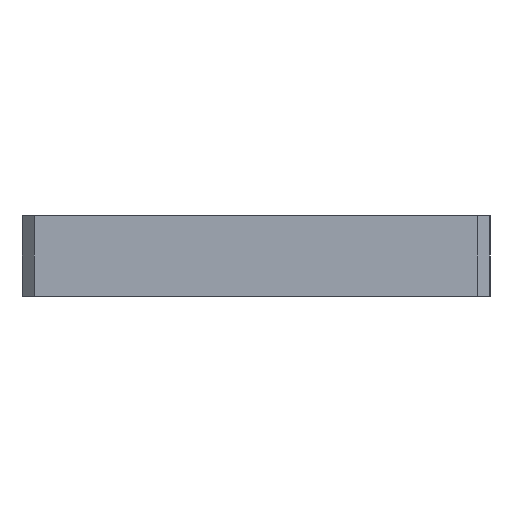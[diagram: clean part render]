
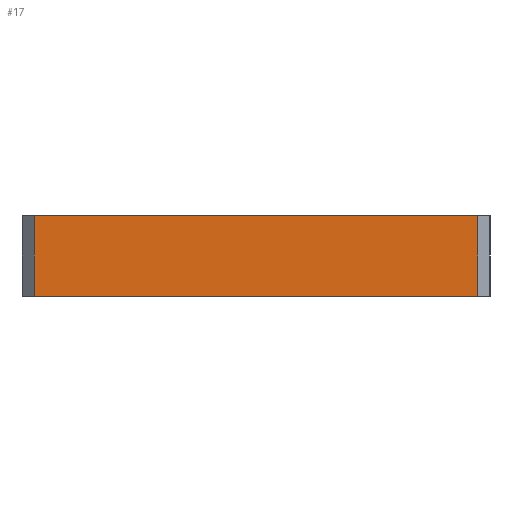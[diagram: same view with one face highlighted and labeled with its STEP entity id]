
A CAD part, left-side view. The second image highlights one B-rep face of the part: STEP entity #17.
In plain terms, the highlighted planar face has unit normal (-1, 0, 0).
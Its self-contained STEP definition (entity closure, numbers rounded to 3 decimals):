
#17 = ADVANCED_FACE('',(#18),#32,.F.);
#18 = FACE_BOUND('',#19,.F.);
#19 = EDGE_LOOP('',(#20,#55,#83,#111));
#20 = ORIENTED_EDGE('',*,*,#21,.F.);
#21 = EDGE_CURVE('',#22,#24,#26,.T.);
#22 = VERTEX_POINT('',#23);
#23 = CARTESIAN_POINT('',(-40.,-22.05,4.));
#24 = VERTEX_POINT('',#25);
#25 = CARTESIAN_POINT('',(-40.,22.05,4.));
#26 = SURFACE_CURVE('',#27,(#31,#43),.PCURVE_S1.);
#27 = LINE('',#28,#29);
#28 = CARTESIAN_POINT('',(-40.,-23.25,4.));
#29 = VECTOR('',#30,1.);
#30 = DIRECTION('',(0.,1.,0.));
#31 = PCURVE('',#32,#37);
#32 = PLANE('',#33);
#33 = AXIS2_PLACEMENT_3D('',#34,#35,#36);
#34 = CARTESIAN_POINT('',(-40.,-23.25,-4.));
#35 = DIRECTION('',(1.,0.,0.));
#36 = DIRECTION('',(0.,0.,1.));
#37 = DEFINITIONAL_REPRESENTATION('',(#38),#42);
#38 = LINE('',#39,#40);
#39 = CARTESIAN_POINT('',(8.,0.));
#40 = VECTOR('',#41,1.);
#41 = DIRECTION('',(0.,-1.));
#42 = ( GEOMETRIC_REPRESENTATION_CONTEXT(2) 
PARAMETRIC_REPRESENTATION_CONTEXT() REPRESENTATION_CONTEXT('2D SPACE',''
  ) );
#43 = PCURVE('',#44,#49);
#44 = PLANE('',#45);
#45 = AXIS2_PLACEMENT_3D('',#46,#47,#48);
#46 = CARTESIAN_POINT('',(-40.,-23.25,4.));
#47 = DIRECTION('',(0.,0.,1.));
#48 = DIRECTION('',(1.,0.,0.));
#49 = DEFINITIONAL_REPRESENTATION('',(#50),#54);
#50 = LINE('',#51,#52);
#51 = CARTESIAN_POINT('',(0.,0.));
#52 = VECTOR('',#53,1.);
#53 = DIRECTION('',(0.,1.));
#54 = ( GEOMETRIC_REPRESENTATION_CONTEXT(2) 
PARAMETRIC_REPRESENTATION_CONTEXT() REPRESENTATION_CONTEXT('2D SPACE',''
  ) );
#55 = ORIENTED_EDGE('',*,*,#56,.F.);
#56 = EDGE_CURVE('',#57,#22,#59,.T.);
#57 = VERTEX_POINT('',#58);
#58 = CARTESIAN_POINT('',(-40.,-22.05,-4.));
#59 = SURFACE_CURVE('',#60,(#64,#71),.PCURVE_S1.);
#60 = LINE('',#61,#62);
#61 = CARTESIAN_POINT('',(-40.,-22.05,-4.));
#62 = VECTOR('',#63,1.);
#63 = DIRECTION('',(0.,0.,1.));
#64 = PCURVE('',#32,#65);
#65 = DEFINITIONAL_REPRESENTATION('',(#66),#70);
#66 = LINE('',#67,#68);
#67 = CARTESIAN_POINT('',(0.,-1.2));
#68 = VECTOR('',#69,1.);
#69 = DIRECTION('',(1.,0.));
#70 = ( GEOMETRIC_REPRESENTATION_CONTEXT(2) 
PARAMETRIC_REPRESENTATION_CONTEXT() REPRESENTATION_CONTEXT('2D SPACE',''
  ) );
#71 = PCURVE('',#72,#77);
#72 = PLANE('',#73);
#73 = AXIS2_PLACEMENT_3D('',#74,#75,#76);
#74 = CARTESIAN_POINT('',(-39.4,-22.65,-4.));
#75 = DIRECTION('',(-0.707,-0.707,0.)
  );
#76 = DIRECTION('',(0.,0.,-1.));
#77 = DEFINITIONAL_REPRESENTATION('',(#78),#82);
#78 = LINE('',#79,#80);
#79 = CARTESIAN_POINT('',(-0.,-0.849));
#80 = VECTOR('',#81,1.);
#81 = DIRECTION('',(-1.,0.));
#82 = ( GEOMETRIC_REPRESENTATION_CONTEXT(2) 
PARAMETRIC_REPRESENTATION_CONTEXT() REPRESENTATION_CONTEXT('2D SPACE',''
  ) );
#83 = ORIENTED_EDGE('',*,*,#84,.T.);
#84 = EDGE_CURVE('',#57,#85,#87,.T.);
#85 = VERTEX_POINT('',#86);
#86 = CARTESIAN_POINT('',(-40.,22.05,-4.));
#87 = SURFACE_CURVE('',#88,(#92,#99),.PCURVE_S1.);
#88 = LINE('',#89,#90);
#89 = CARTESIAN_POINT('',(-40.,-23.25,-4.));
#90 = VECTOR('',#91,1.);
#91 = DIRECTION('',(0.,1.,0.));
#92 = PCURVE('',#32,#93);
#93 = DEFINITIONAL_REPRESENTATION('',(#94),#98);
#94 = LINE('',#95,#96);
#95 = CARTESIAN_POINT('',(0.,0.));
#96 = VECTOR('',#97,1.);
#97 = DIRECTION('',(0.,-1.));
#98 = ( GEOMETRIC_REPRESENTATION_CONTEXT(2) 
PARAMETRIC_REPRESENTATION_CONTEXT() REPRESENTATION_CONTEXT('2D SPACE',''
  ) );
#99 = PCURVE('',#100,#105);
#100 = PLANE('',#101);
#101 = AXIS2_PLACEMENT_3D('',#102,#103,#104);
#102 = CARTESIAN_POINT('',(-40.,-23.25,-4.));
#103 = DIRECTION('',(0.,0.,1.));
#104 = DIRECTION('',(1.,0.,0.));
#105 = DEFINITIONAL_REPRESENTATION('',(#106),#110);
#106 = LINE('',#107,#108);
#107 = CARTESIAN_POINT('',(0.,0.));
#108 = VECTOR('',#109,1.);
#109 = DIRECTION('',(0.,1.));
#110 = ( GEOMETRIC_REPRESENTATION_CONTEXT(2) 
PARAMETRIC_REPRESENTATION_CONTEXT() REPRESENTATION_CONTEXT('2D SPACE',''
  ) );
#111 = ORIENTED_EDGE('',*,*,#112,.T.);
#112 = EDGE_CURVE('',#85,#24,#113,.T.);
#113 = SURFACE_CURVE('',#114,(#118,#125),.PCURVE_S1.);
#114 = LINE('',#115,#116);
#115 = CARTESIAN_POINT('',(-40.,22.05,-4.));
#116 = VECTOR('',#117,1.);
#117 = DIRECTION('',(0.,0.,1.));
#118 = PCURVE('',#32,#119);
#119 = DEFINITIONAL_REPRESENTATION('',(#120),#124);
#120 = LINE('',#121,#122);
#121 = CARTESIAN_POINT('',(0.,-45.3));
#122 = VECTOR('',#123,1.);
#123 = DIRECTION('',(1.,0.));
#124 = ( GEOMETRIC_REPRESENTATION_CONTEXT(2) 
PARAMETRIC_REPRESENTATION_CONTEXT() REPRESENTATION_CONTEXT('2D SPACE',''
  ) );
#125 = PCURVE('',#126,#131);
#126 = PLANE('',#127);
#127 = AXIS2_PLACEMENT_3D('',#128,#129,#130);
#128 = CARTESIAN_POINT('',(-39.4,22.65,-4.));
#129 = DIRECTION('',(0.707,-0.707,0.)
  );
#130 = DIRECTION('',(0.,0.,-1.));
#131 = DEFINITIONAL_REPRESENTATION('',(#132),#136);
#132 = LINE('',#133,#134);
#133 = CARTESIAN_POINT('',(-0.,-0.849));
#134 = VECTOR('',#135,1.);
#135 = DIRECTION('',(-1.,0.));
#136 = ( GEOMETRIC_REPRESENTATION_CONTEXT(2) 
PARAMETRIC_REPRESENTATION_CONTEXT() REPRESENTATION_CONTEXT('2D SPACE',''
  ) );
